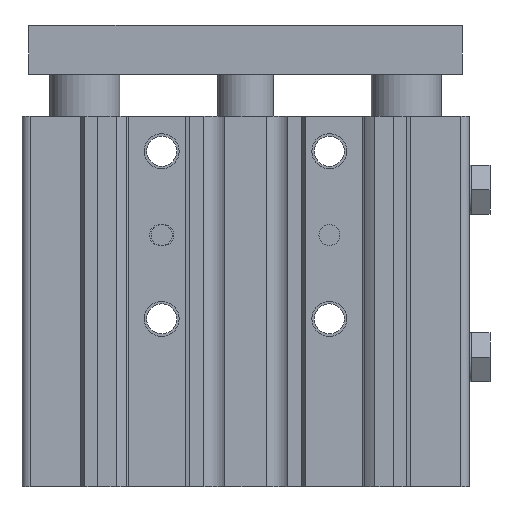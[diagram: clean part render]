
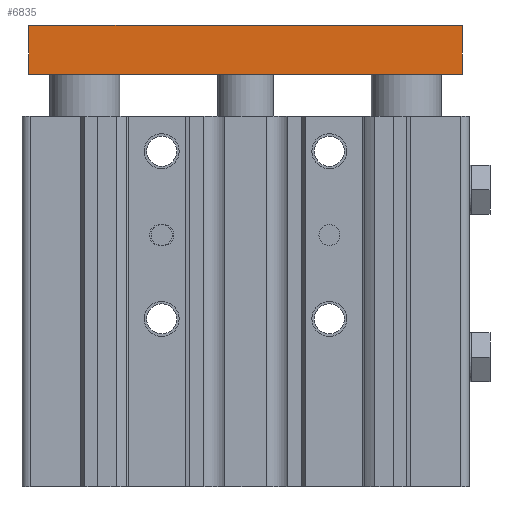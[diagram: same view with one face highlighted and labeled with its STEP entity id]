
A CAD part, front view. The second image highlights one B-rep face of the part: STEP entity #6835.
In plain terms, the highlighted planar face has unit normal (0, -1, 0).
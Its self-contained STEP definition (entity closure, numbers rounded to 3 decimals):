
#363 = VERTEX_POINT ( 'NONE', #20964 ) ;
#4496 = CARTESIAN_POINT ( 'NONE',  ( 31., -12.5, 0. ) ) ;
#4643 = VERTEX_POINT ( 'NONE', #4496 ) ;
#5188 = VERTEX_POINT ( 'NONE', #14525 ) ;
#5981 = AXIS2_PLACEMENT_3D ( 'NONE', #9084, #26956, #14321 ) ;
#6306 = DIRECTION ( 'NONE',  ( 1., 0., 0. ) ) ;
#6835 = ADVANCED_FACE ( 'NONE', ( #16492 ), #9407, .F. ) ;
#7036 = ORIENTED_EDGE ( 'NONE', *, *, #15469, .T. ) ;
#8164 = DIRECTION ( 'NONE',  ( 0., 0., -1. ) ) ;
#8271 = VERTEX_POINT ( 'NONE', #13435 ) ;
#9084 = CARTESIAN_POINT ( 'NONE',  ( -31., -12.5, 7. ) ) ;
#9407 = PLANE ( 'NONE',  #5981 ) ;
#10357 = LINE ( 'NONE', #25119, #23710 ) ;
#11701 = ORIENTED_EDGE ( 'NONE', *, *, #28261, .T. ) ;
#12166 = DIRECTION ( 'NONE',  ( 0., 0., -1. ) ) ;
#13435 = CARTESIAN_POINT ( 'NONE',  ( -31., -12.5, 0. ) ) ;
#13594 = CARTESIAN_POINT ( 'NONE',  ( 31., -12.5, 7. ) ) ;
#14321 = DIRECTION ( 'NONE',  ( 0., 0., 1. ) ) ;
#14525 = CARTESIAN_POINT ( 'NONE',  ( 31., -12.5, 7. ) ) ;
#15134 = ORIENTED_EDGE ( 'NONE', *, *, #27697, .F. ) ;
#15469 = EDGE_CURVE ( 'NONE', #363, #8271, #24321, .T. ) ;
#16492 = FACE_OUTER_BOUND ( 'NONE', #30011, .T. ) ;
#18530 = LINE ( 'NONE', #13594, #25774 ) ;
#20964 = CARTESIAN_POINT ( 'NONE',  ( -31., -12.5, 7. ) ) ;
#21394 = CARTESIAN_POINT ( 'NONE',  ( -31., -12.5, 7. ) ) ;
#23710 = VECTOR ( 'NONE', #27595, 1000. ) ;
#24206 = VECTOR ( 'NONE', #6306, 1000. ) ;
#24321 = LINE ( 'NONE', #27083, #24922 ) ;
#24488 = EDGE_CURVE ( 'NONE', #5188, #4643, #18530, .T. ) ;
#24922 = VECTOR ( 'NONE', #12166, 1000. ) ;
#25119 = CARTESIAN_POINT ( 'NONE',  ( -31., -12.5, 0. ) ) ;
#25774 = VECTOR ( 'NONE', #8164, 1000. ) ;
#26731 = ORIENTED_EDGE ( 'NONE', *, *, #24488, .F. ) ;
#26956 = DIRECTION ( 'NONE',  ( 0., 1., 0. ) ) ;
#27083 = CARTESIAN_POINT ( 'NONE',  ( -31., -12.5, 7. ) ) ;
#27595 = DIRECTION ( 'NONE',  ( 1., 0., 0. ) ) ;
#27697 = EDGE_CURVE ( 'NONE', #363, #5188, #28577, .T. ) ;
#28261 = EDGE_CURVE ( 'NONE', #8271, #4643, #10357, .T. ) ;
#28577 = LINE ( 'NONE', #21394, #24206 ) ;
#30011 = EDGE_LOOP ( 'NONE', ( #11701, #26731, #15134, #7036 ) ) ;
